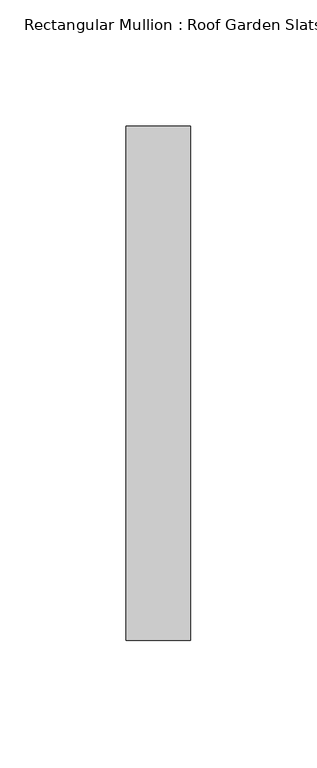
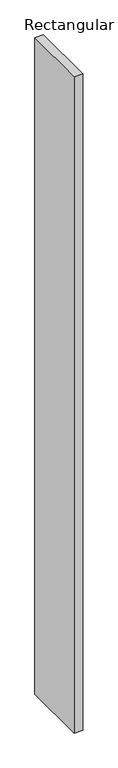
"""IFC4 building model written with IfcOpenShell, lengths in millimetres: member geometry, Rectangular Mullion : Roof Garden Slats."""

from ifc_helpers import new_model, si_unit, frame, origin, place, context, project, spatial, polyline, outline, extrude, source, transform, mapped, element, save


def rectangular_mullion_roof_garden_slats_bdd2814f(model_context):
    return source(origin(), model_context, "Body", "SweptSolid", [
        extrude(outline(polyline([(12.7, 139.7), (12.7, -63.5), (-12.7, -63.5), (-12.7, 139.7), (12.7, 139.7)])), frame((0.0, 0.0, -2076.5758808), z_axis=(0.0, 0.0, 1.0), x_axis=(1.0, 0.0, 0.0)), (0.0, 0.0, 1.0), 2076.5758808),
    ])


if __name__ == "__main__":
    model = new_model("IFC4")
    model_context = context("Model", 3, world=origin())
    ifc_project = project(units=[si_unit("LENGTHUNIT", "METRE", prefix="MILLI")], contexts=[model_context])
    site = spatial("IfcSite", under=ifc_project)
    building = spatial("IfcBuilding", under=site)
    placement = place(None, origin())
    rectangular_mullion_roof_garden_slats_shape = rectangular_mullion_roof_garden_slats_bdd2814f(model_context)
    element("IfcMember", 1, ObjectType="Rectangular Mullion : Roof Garden Slats", at=placement, inside=building, context=model_context, shape_type="MappedRepresentation", body=[
        mapped(rectangular_mullion_roof_garden_slats_shape, transform((0.0, 0.0, 0.0), x_axis=(1.0, 0.0, 0.0), y_axis=(0.0, 1.0, 0.0), z_axis=(0.0, 0.0, 1.0))),
    ])
    save(model, "model.ifc")
